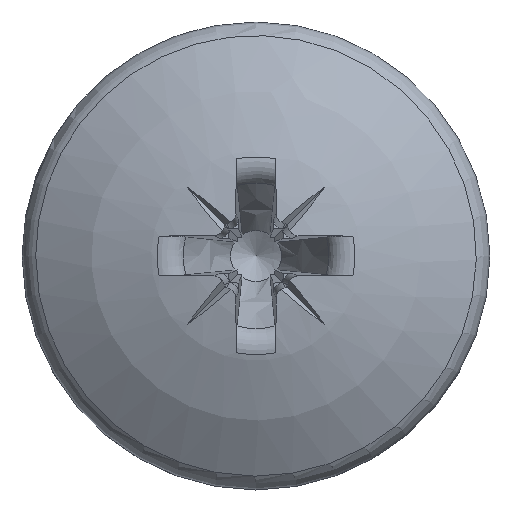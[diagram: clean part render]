
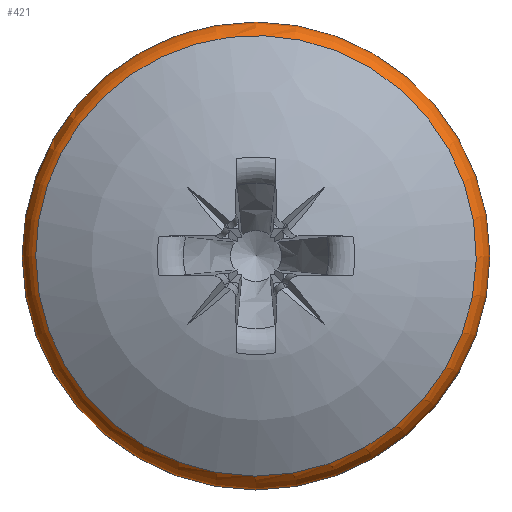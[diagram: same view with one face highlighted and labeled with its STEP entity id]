
A CAD part, top view. The second image highlights one B-rep face of the part: STEP entity #421.
In plain terms, the highlighted toroidal (fillet/blend) face has major radius 5.33 mm and minor radius 0.82 mm.
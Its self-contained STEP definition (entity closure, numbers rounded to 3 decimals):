
#327=TOROIDAL_SURFACE('',#1888,5.33,0.82);
#343=FACE_BOUND('',#649,.T.);
#344=FACE_BOUND('',#650,.T.);
#421=ADVANCED_FACE('',(#343,#344),#327,.T.);
#649=EDGE_LOOP('',(#1079));
#650=EDGE_LOOP('',(#1080));
#698=CIRCLE('',#1773,5.792);
#723=CIRCLE('',#1803,6.15);
#1079=ORIENTED_EDGE('',*,*,#1476,.F.);
#1080=ORIENTED_EDGE('',*,*,#1435,.F.);
#1277=VERTEX_POINT('',#3118);
#1316=VERTEX_POINT('',#3389);
#1435=EDGE_CURVE('',#1277,#1277,#698,.T.);
#1476=EDGE_CURVE('',#1316,#1316,#723,.T.);
#1773=AXIS2_PLACEMENT_3D('',#3117,#1906,#1907);
#1803=AXIS2_PLACEMENT_3D('',#3388,#1967,#1968);
#1888=AXIS2_PLACEMENT_3D('',#3820,#2197,#2198);
#1906=DIRECTION('',(0.,0.,1.));
#1907=DIRECTION('',(-1.,0.,0.));
#1967=DIRECTION('',(0.,0.,-1.));
#1968=DIRECTION('',(-1.,0.,0.));
#2197=DIRECTION('',(0.,0.,-1.));
#2198=DIRECTION('',(-1.,0.,0.));
#3117=CARTESIAN_POINT('',(0.,0.,3.315));
#3118=CARTESIAN_POINT('',(-5.792,0.,3.315));
#3388=CARTESIAN_POINT('',(0.,0.,2.638));
#3389=CARTESIAN_POINT('',(-6.15,0.,2.638));
#3820=CARTESIAN_POINT('',(0.,0.,2.638));
